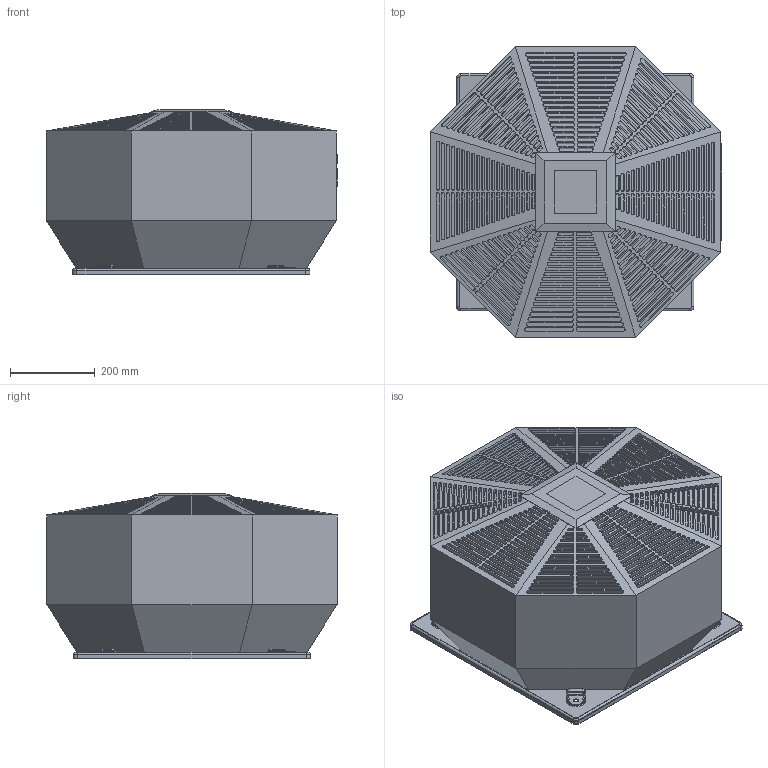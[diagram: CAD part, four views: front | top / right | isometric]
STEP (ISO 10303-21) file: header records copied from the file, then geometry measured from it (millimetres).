
FILE_DESCRIPTION(/* description */ (''),/* implementation_level */ '2;1');
FILE_NAME(/* name */ 'D:\Piotr - Dokumenty\Modele uproszczone\RFV\RFV X-400\komplet\RFV_RFV_EC_X_400_X.stp',/* time_stamp */ '2021-03-15T13:21:03+01:00',/* author */ ('Piotr.Nowotniak'),/* organization */ (''),/* preprocessor_version */ 'ST-DEVELOPER v18',/* originating_system */ 'Autodesk Inventor 2020',/* authorisation */ '');
FILE_SCHEMA (('AUTOMOTIVE_DESIGN { 1 0 10303 214 3 1 1 }'));
Products named in the file (1): RFV_RFV_EC_X_400_X
Bounding box: 688 x 685 x 390 mm (x, y, z)
Volume: 124662982.1 mm3; surface area: 2124975 mm2
Topology: 1 solids, 2 shells, 3766 faces, 10062 edges, 6663 vertices
Faces by surface type: plane 1966, cylinder 1335, bspline 442, torus 22, cone 1
Full cylindrical faces by diameter (mm): 12 x4, 398.665 x1, 450 x1, 451.076 x1
Entity records: 125847 total; most frequent: CARTESIAN_POINT 28789, ORIENTED_EDGE 20124, DIRECTION 18609, EDGE_CURVE 10062, VERTEX_POINT 6663, LINE 6419, VECTOR 6419, AXIS2_PLACEMENT_3D 6095
